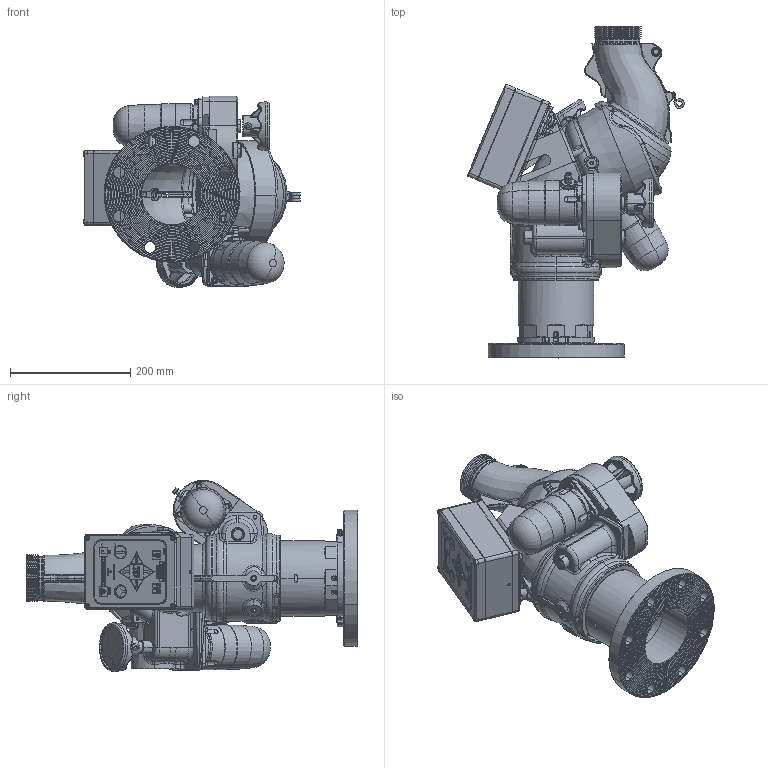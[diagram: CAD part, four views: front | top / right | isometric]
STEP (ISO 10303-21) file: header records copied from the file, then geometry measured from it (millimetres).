
FILE_DESCRIPTION (( 'STEP AP203' ), '1' );
FILE_NAME ('Y4-E25A-L_Vertical.STEP', '2016-06-08T11:29:01', ( '' ), ( '' ), 'SwSTEP 2.0', 'SolidWorks 2015', '' );
FILE_SCHEMA (( 'CONFIG_CONTROL_DESIGN' ));
Length unit declared in the file: inch
Products named in the file (1): Y4-E25A-L_Vertical
Bounding box: 359.9 x 551.08 x 317.62 mm (x, y, z)
Surface area: 926314.1 mm2 (no closed solid volume)
Topology: 0 solids, 222 shells, 2816 faces, 11954 edges, 9156 vertices
Faces by surface type: plane 846, cylinder 684, bspline 523, torus 445, cone 296, sphere 22
Entity records: 190501 total; most frequent: CARTESIAN_POINT 102559, ORIENTED_EDGE 17496, DIRECTION 15618, EDGE_CURVE 11934, VERTEX_POINT 9152, AXIS2_PLACEMENT_3D 5345, LINE 4928, VECTOR 4928
